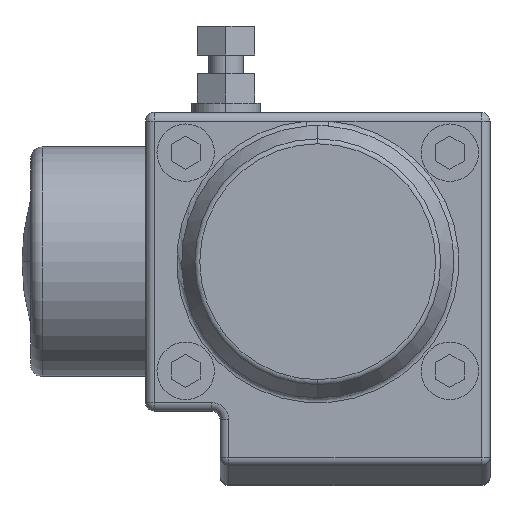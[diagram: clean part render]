
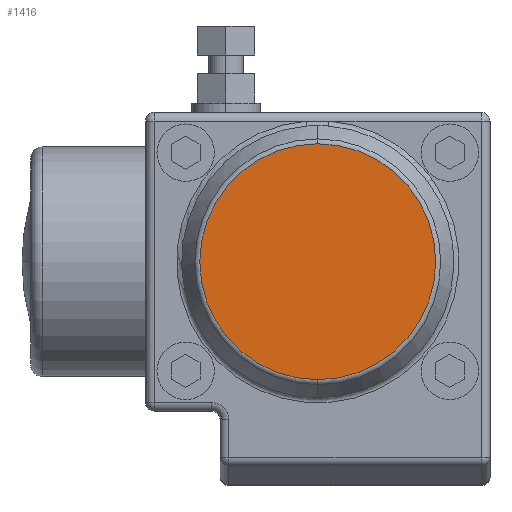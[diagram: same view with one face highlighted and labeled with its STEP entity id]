
A CAD part, left-side view. The second image highlights one B-rep face of the part: STEP entity #1416.
In plain terms, the highlighted planar face has unit normal (-1, 0, 0).
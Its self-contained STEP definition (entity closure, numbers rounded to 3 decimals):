
#199 = DIRECTION ( 'NONE',  ( 0., 0., -1. ) ) ;
#1248 = CARTESIAN_POINT ( 'NONE',  ( -60., 0., 0. ) ) ;
#1416 = ADVANCED_FACE ( 'NONE', ( #11974 ), #1425, .F. ) ;
#1425 = PLANE ( 'NONE',  #8894 ) ;
#1915 = AXIS2_PLACEMENT_3D ( 'NONE', #1248, #5477, #199 ) ;
#2488 = ORIENTED_EDGE ( 'NONE', *, *, #5803, .T. ) ;
#3522 = DIRECTION ( 'NONE',  ( 0., 0., 1. ) ) ;
#3604 = DIRECTION ( 'NONE',  ( 1., 0., 0. ) ) ;
#4391 = EDGE_LOOP ( 'NONE', ( #2488, #4912 ) ) ;
#4646 = AXIS2_PLACEMENT_3D ( 'NONE', #6152, #7238, #9144 ) ;
#4912 = ORIENTED_EDGE ( 'NONE', *, *, #8031, .T. ) ;
#5477 = DIRECTION ( 'NONE',  ( -1., 0., 0. ) ) ;
#5803 = EDGE_CURVE ( 'NONE', #6668, #8307, #9136, .T. ) ;
#6152 = CARTESIAN_POINT ( 'NONE',  ( -60., 0., 0. ) ) ;
#6668 = VERTEX_POINT ( 'NONE', #9291 ) ;
#7238 = DIRECTION ( 'NONE',  ( -1., 0., 0. ) ) ;
#7349 = CIRCLE ( 'NONE', #4646, 20.536 ) ;
#8031 = EDGE_CURVE ( 'NONE', #8307, #6668, #7349, .T. ) ;
#8307 = VERTEX_POINT ( 'NONE', #11520 ) ;
#8894 = AXIS2_PLACEMENT_3D ( 'NONE', #9596, #3604, #3522 ) ;
#9136 = CIRCLE ( 'NONE', #1915, 20.536 ) ;
#9144 = DIRECTION ( 'NONE',  ( 0., 0., -1. ) ) ;
#9291 = CARTESIAN_POINT ( 'NONE',  ( -60., 0., -20.536 ) ) ;
#9596 = CARTESIAN_POINT ( 'NONE',  ( -60., 0., 0. ) ) ;
#11520 = CARTESIAN_POINT ( 'NONE',  ( -60., 0., 20.536 ) ) ;
#11974 = FACE_OUTER_BOUND ( 'NONE', #4391, .T. ) ;
